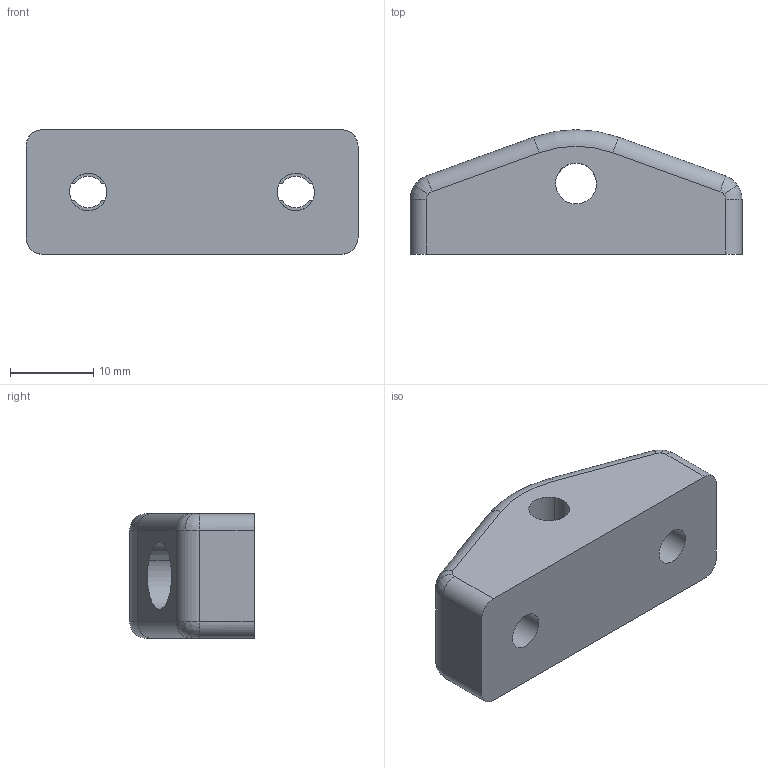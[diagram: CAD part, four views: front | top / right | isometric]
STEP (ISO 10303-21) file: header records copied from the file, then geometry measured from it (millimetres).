
FILE_DESCRIPTION(('CATIA V5 STEP Exchange'),'2;1');
FILE_NAME('X:\CODICI MOVEX\3D per clienti\3D definitivi\Part 400\P42301_01.stp','2016-09-07T14:55:05+00:00',('none'),('none'),'Version 5-6 Release 2012','CATIA V5 STEP AP203','none');
FILE_SCHEMA(('CONFIG_CONTROL_DESIGN'));
Length unit declared in the file: millimetre
Products named in the file (1): P42301_01
Bounding box: 40 x 15 x 15 mm (x, y, z)
Volume: 5447.5 mm3; surface area: 3915.2 mm2
Topology: 1 solids, 5 shells, 160 faces, 390 edges, 242 vertices
Faces by surface type: cylinder 73, plane 49, torus 30, revolution 8
Entity records: 4592 total; most frequent: CARTESIAN_POINT 969, ORIENTED_EDGE 780, DIRECTION 626, EDGE_CURVE 390, AXIS2_PLACEMENT_3D 315, VERTEX_POINT 242, CIRCLE 192, VECTOR 182
